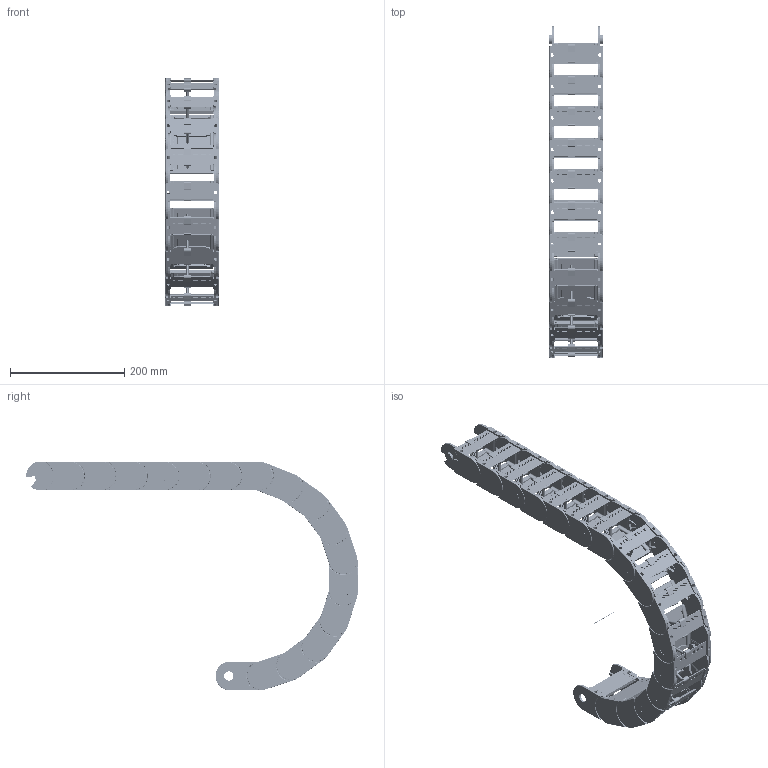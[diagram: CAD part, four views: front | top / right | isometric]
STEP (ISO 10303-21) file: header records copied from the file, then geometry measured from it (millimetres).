
FILE_DESCRIPTION((''),'2;1');
FILE_NAME('C:\Uebbing\PARAMETERKETTEN\KOLIBRI\Kol_50_095_2\KOLIBRI 50_095_2_R175.stp','2012-03-05T09:47:35',('Uebbing'),(''),'Autodesk Inventor 10','Autodesk Inventor 10','');
FILE_SCHEMA(('AUTOMOTIVE_DESIGN { 1 0 10303 214 1 1 1 1 }'));
Length unit declared in the file: millimetre
Products named in the file (6): KOLIBRI 50_095_2_PARAMETRISCH; Achse; Kol_50_095_2; Kol_50_095_2_Lasche; Kol_50_95_0_Klappsteg; Kol_50_095_2 PZ 
Assembly tree (21 placements, depth 3):
  KOLIBRI 50_095_2_PARAMETRISCH
    Achse
    Kol_50_095_2  x17
      Kol_50_095_2_Lasche
      Kol_50_95_0_Klappsteg
      Kol_50_095_2 PZ 
Bounding box: 92.88 x 580.38 x 400.25 mm (x, y, z)
Volume: 1002461.1 mm3; surface area: 676584.3 mm2
Topology: 52 solids, 52 shells, 14742 faces, 38849 edges, 25333 vertices
Faces by surface type: plane 7907, cylinder 3248, bspline 3145, torus 340, sphere 68, cone 34
Full cylindrical faces by diameter (mm): 1 x1, 2.021 x17, 3.549 x17, 4 x17, 4.036 x17, 4.221 x34, 6.231 x17, 16.08 x17, 16.18 x17
Entity records: 31726 total; most frequent: CARTESIAN_POINT 10428, ORIENTED_EDGE 4498, DIRECTION 4153, EDGE_CURVE 2249, VECTOR 1599, LINE 1599, VERTEX_POINT 1478, AXIS2_PLACEMENT_3D 1277
